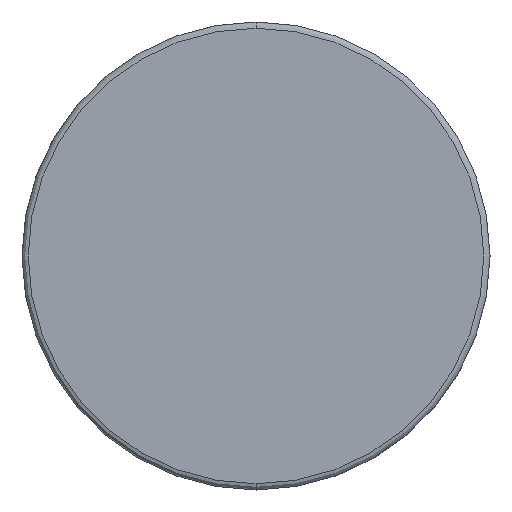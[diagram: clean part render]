
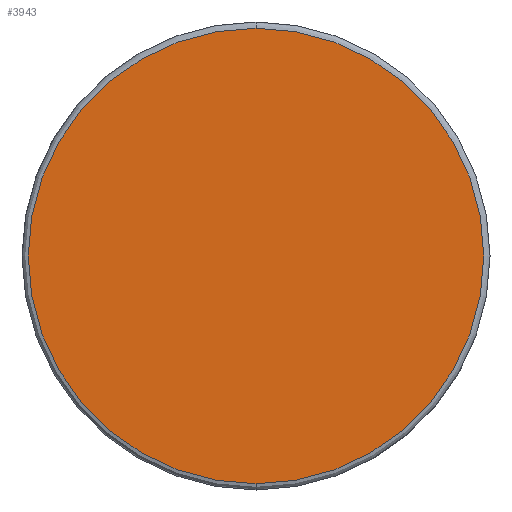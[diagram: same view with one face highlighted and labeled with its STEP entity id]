
A CAD part, front view. The second image highlights one B-rep face of the part: STEP entity #3943.
In plain terms, the highlighted planar face has unit normal (0, -1, 0).
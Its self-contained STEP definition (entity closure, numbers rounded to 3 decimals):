
#83 = DIRECTION ( 'NONE',  ( 0., 0., 1. ) ) ;
#1193 = EDGE_CURVE ( 'NONE', #6717, #8723, #10625, .T. ) ;
#1333 = CARTESIAN_POINT ( 'NONE',  ( 0., 0., -14.6 ) ) ;
#2140 = CARTESIAN_POINT ( 'NONE',  ( 0., 0., 0. ) ) ;
#2251 = AXIS2_PLACEMENT_3D ( 'NONE', #2140, #9536, #4621 ) ;
#2539 = FACE_OUTER_BOUND ( 'NONE', #7186, .T. ) ;
#2686 = CARTESIAN_POINT ( 'NONE',  ( 0., 0., 0. ) ) ;
#3276 = AXIS2_PLACEMENT_3D ( 'NONE', #9915, #5022, #83 ) ;
#3519 = DIRECTION ( 'NONE',  ( 0., 0., 1. ) ) ;
#3812 = AXIS2_PLACEMENT_3D ( 'NONE', #2686, #8392, #3519 ) ;
#3943 = ADVANCED_FACE ( 'NONE', ( #2539 ), #9496, .F. ) ;
#4507 = ORIENTED_EDGE ( 'NONE', *, *, #9050, .T. ) ;
#4621 = DIRECTION ( 'NONE',  ( 0., 0., 1. ) ) ;
#4798 = CIRCLE ( 'NONE', #3812, 14.6 ) ;
#5022 = DIRECTION ( 'NONE',  ( 0., -1., 0. ) ) ;
#5459 = CARTESIAN_POINT ( 'NONE',  ( 0., 0., 14.6 ) ) ;
#6717 = VERTEX_POINT ( 'NONE', #5459 ) ;
#6765 = ORIENTED_EDGE ( 'NONE', *, *, #1193, .T. ) ;
#7186 = EDGE_LOOP ( 'NONE', ( #6765, #4507 ) ) ;
#8392 = DIRECTION ( 'NONE',  ( 0., -1., 0. ) ) ;
#8723 = VERTEX_POINT ( 'NONE', #1333 ) ;
#9050 = EDGE_CURVE ( 'NONE', #8723, #6717, #4798, .T. ) ;
#9496 = PLANE ( 'NONE',  #2251 ) ;
#9536 = DIRECTION ( 'NONE',  ( 0., 1., 0. ) ) ;
#9915 = CARTESIAN_POINT ( 'NONE',  ( 0., 0., 0. ) ) ;
#10625 = CIRCLE ( 'NONE', #3276, 14.6 ) ;
